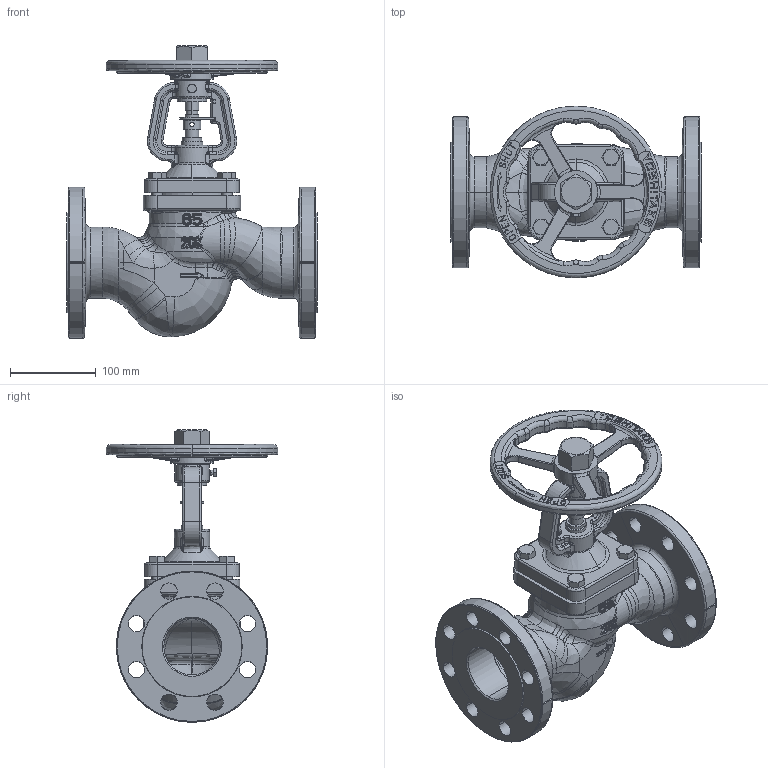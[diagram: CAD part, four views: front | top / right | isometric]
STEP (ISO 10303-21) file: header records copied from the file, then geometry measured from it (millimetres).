
FILE_DESCRIPTION( (''), '2;1');
FILE_NAME ('PC1027.9568.BSV-20F 65A_27942.stp','2025-07-28T09:47:15',(''),(''),'spGate 19.8.4 (****-****-****-****)','','');
FILE_SCHEMA (('AUTOMOTIVE_DESIGN'));
Length unit declared in the file: millimetre
Products named in the file (12): Assembly; ボンネット65A; スリーブワッシャー40-80A; スリーブ65-80A; ストッパー65-80A; スピンドル65A; グランドナット65-80A; ハンドル65-80Aφ200; ハンドルナット40-80A; CP_''_JIS B 1180 呼び径六角ボルト''_17166; CP_''_JIS B 1180 呼び径六角ボ''_(1)_17166; 本体20K 65A
Assembly tree (15 placements, depth 2):
  Assembly
    ボンネット65A
    スリーブワッシャー40-80A  x2
    スリーブ65-80A
    ストッパー65-80A
    スピンドル65A
    グランドナット65-80A
    ハンドル65-80Aφ200
    ハンドルナット40-80A
    CP_''_JIS B 1180 呼び径六角ボルト''_17166  x4
    CP_''_JIS B 1180 呼び径六角ボ''_(1)_17166
    本体20K 65A
Bounding box: 292 x 200 x 340.5 mm (x, y, z)
Volume: 2142502.3 mm3; surface area: 464463.9 mm2
Topology: 15 solids, 15 shells, 2102 faces, 5215 edges, 3117 vertices
Faces by surface type: bspline 1076, cylinder 565, plane 453, sphere 8
Full cylindrical faces by diameter (mm): 82.82 x1
Entity records: 146082 total; most frequent: CARTESIAN_POINT 68676, ORIENTED_EDGE 9954, COLOUR_RGB 7012, PRESENTATION_STYLE_ASSIGNMENT 7012, STYLED_ITEM 7012, DIRECTION 5363, EDGE_CURVE 4977, DRAUGHTING_PRE_DEFINED_CURVE_FONT 4977
